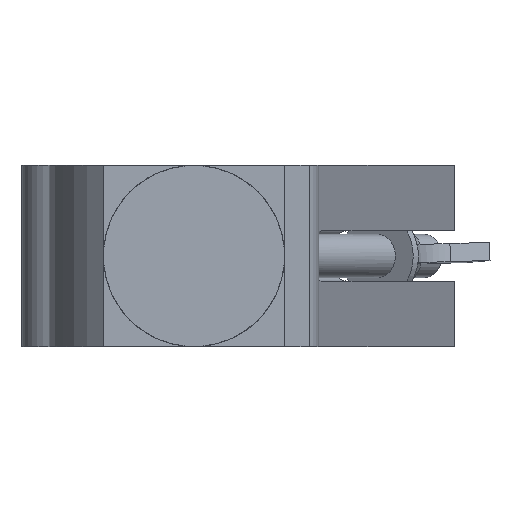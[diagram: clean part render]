
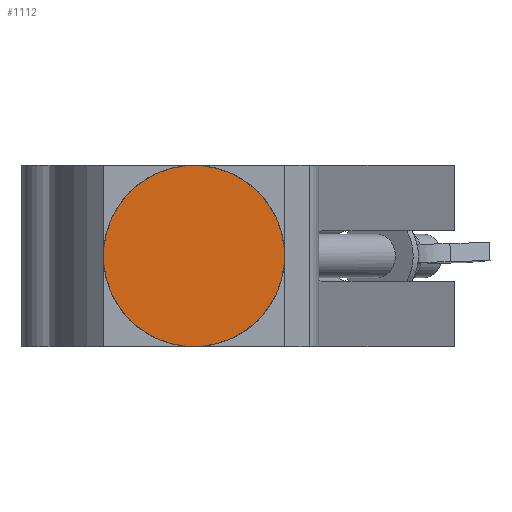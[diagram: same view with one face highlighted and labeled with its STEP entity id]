
A CAD part, front view. The second image highlights one B-rep face of the part: STEP entity #1112.
In plain terms, the highlighted planar face has unit normal (0, -1, 0).
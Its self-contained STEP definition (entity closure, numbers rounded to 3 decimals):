
#261=FACE_OUTER_BOUND('',#319,.T.);
#319=EDGE_LOOP('',(#690));
#382=CIRCLE('',#1191,25.);
#425=VERTEX_POINT('',#1601);
#527=EDGE_CURVE('',#425,#425,#382,.T.);
#690=ORIENTED_EDGE('',*,*,#527,.T.);
#1016=PLANE('',#1190);
#1112=ADVANCED_FACE('',(#261),#1016,.T.);
#1190=AXIS2_PLACEMENT_3D('',#1600,#1294,#1295);
#1191=AXIS2_PLACEMENT_3D('',#1602,#1296,#1297);
#1294=DIRECTION('center_axis',(0.,-1.,0.));
#1295=DIRECTION('ref_axis',(0.707,0.,0.707));
#1296=DIRECTION('center_axis',(0.,-1.,0.));
#1297=DIRECTION('ref_axis',(-0.707,0.,0.707));
#1600=CARTESIAN_POINT('Origin',(-17.678,-92.,17.678));
#1601=CARTESIAN_POINT('',(17.678,-92.,-17.678));
#1602=CARTESIAN_POINT('Origin',(0.,-92.,0.));
